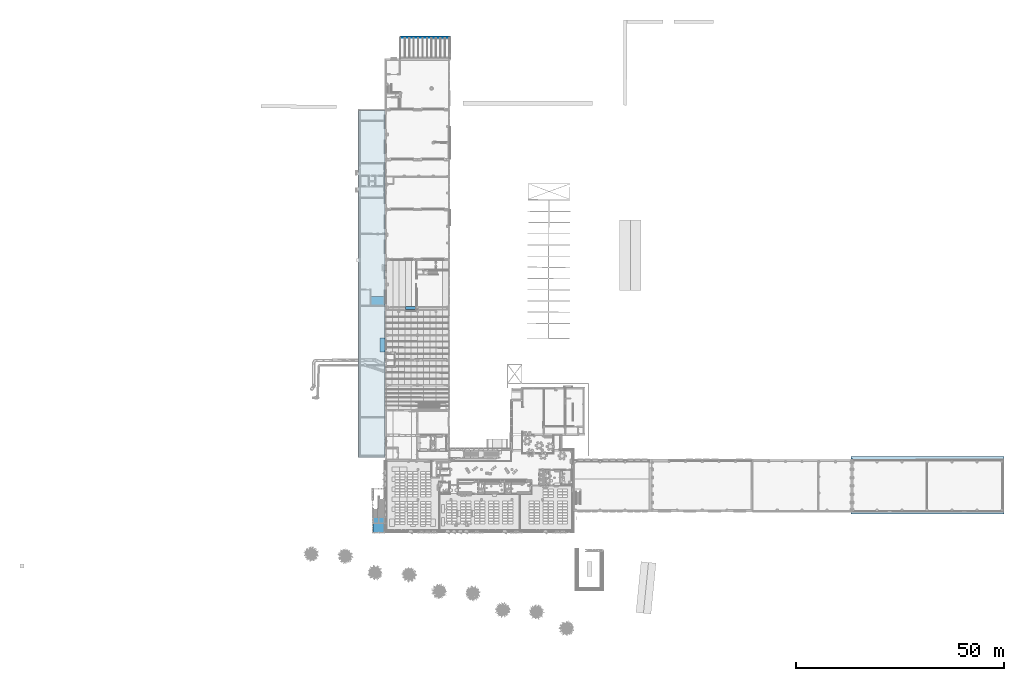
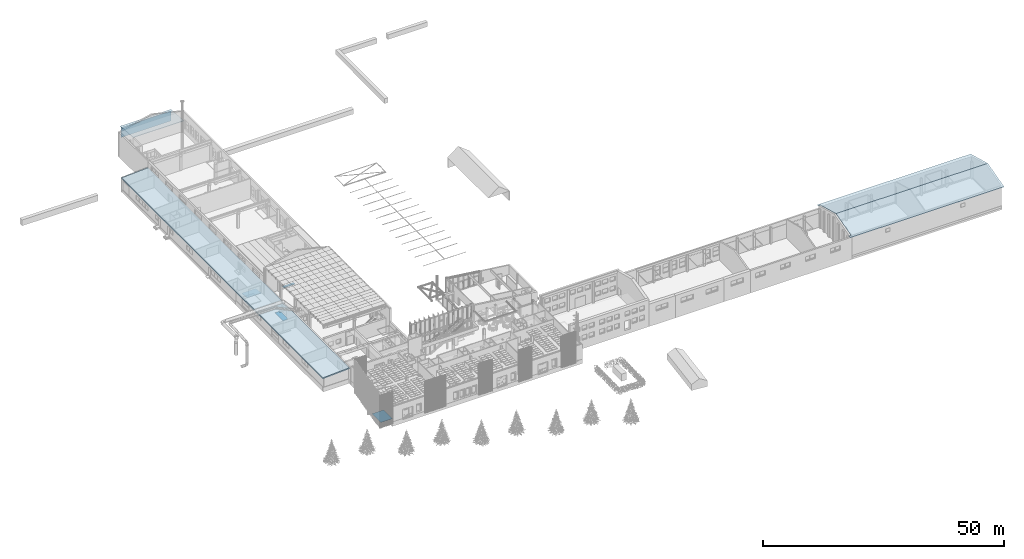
# One storey, part 174 of 301: 3 ramps, 3 roofs, 1 stair, 1 wall.
"""IFC2X3 building model written with IfcOpenShell, lengths in millimetres."""

from ifc_helpers import new_model, entity, si_unit, converted_unit, derived_unit, money_unit, direction, frame, origin_with_axes, place, context, subcontext, project, spatial, faceted_brep, material, type_object, element, save


model = new_model("IFC2X3")

# Units and contexts
model_context = context("Model", 3, precision=0.01, world=origin_with_axes(), true_north=direction((0.0, 1.0)))
body_context = subcontext(model_context, "Body", "Model", "MODEL_VIEW")
ifc_project = project(units=[si_unit("LENGTHUNIT", "METRE", prefix="MILLI"), si_unit("AREAUNIT", "SQUARE_METRE"), si_unit("VOLUMEUNIT", "CUBIC_METRE"), converted_unit("PLANEANGLEUNIT", "DEGREE", entity("IfcPlaneAngleMeasure", 0.0174532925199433), si_unit("PLANEANGLEUNIT", "RADIAN"), dimensions=[0, 0, 0, 0, 0, 0, 0]), money_unit("EUR"), converted_unit("TIMEUNIT", "Year", entity("IfcTimeMeasure", 31557600.0), si_unit("TIMEUNIT", "SECOND"), dimensions=[0, 0, 1, 0, 0, 0, 0]), si_unit("MASSUNIT", "GRAM", prefix="KILO"), si_unit("THERMODYNAMICTEMPERATUREUNIT", "DEGREE_CELSIUS"), si_unit("LUMINOUSINTENSITYUNIT", "LUMEN"), si_unit("ENERGYUNIT", "JOULE", prefix="MEGA"), derived_unit("THERMALCONDUCTANCEUNIT", [(si_unit("POWERUNIT", "WATT"), 1), (si_unit("LENGTHUNIT", "METRE"), -1), (si_unit("THERMODYNAMICTEMPERATUREUNIT", "KELVIN"), -1)]), derived_unit("SPECIFICHEATCAPACITYUNIT", [(si_unit("ENERGYUNIT", "JOULE"), 1), (si_unit("MASSUNIT", "GRAM", prefix="KILO"), -1), (si_unit("THERMODYNAMICTEMPERATUREUNIT", "KELVIN"), -1)]), derived_unit("MASSDENSITYUNIT", [(si_unit("MASSUNIT", "GRAM", prefix="KILO"), 1), (si_unit("VOLUMEUNIT", "CUBIC_METRE"), -1)])], contexts=[model_context])

# Site, building, storey
site_placement = place(None, frame((0.0, 0.0, 8650.0), z_axis=(0.0, 0.0, 1.0), x_axis=(1.0, 0.0, 0.0)))
site = spatial("IfcSite", under=ifc_project, at=site_placement, Name="43301:001:0844", CompositionType="ELEMENT")
building_placement = place(site_placement, origin_with_axes())
building = spatial("IfcBuilding", under=site, at=building_placement, Name="Kuressaare Ametikooli tuulikute mehaanikute õppekorpus", CompositionType="ELEMENT")
storey_placement = place(building_placement, origin_with_axes())
storey = spatial("IfcBuildingStorey", under=building, at=storey_placement, Name="1.korrus", CompositionType="ELEMENT", Elevation=0.0)

# Wall
ifc_material = material(Name="GENEERILINE - KONSTRUKTRIOON")
wall_type = type_object("IfcWallType", Name="GENEERILINE - KONSTRUKTRIOON 60", PredefinedType="NOTDEFINED")
wall_placement = place(storey_placement, frame((91598.74448396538, 127842.1249389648, -1100.0), z_axis=(0.0, 0.0, 1.0), x_axis=(1.0, 0.0, 0.0)))
element("IfcWall", 1, at=wall_placement, inside=storey, type_object=wall_type, material=ifc_material, Name="VS-XX", context=body_context, shape_type="Brep", body=[
    faceted_brep([(0.006477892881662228, 1.389821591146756e-08, 2527.333829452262), (11988.76772306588, 0.0, 2527.62994591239), (11988.76772306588, 0.0, 0.0), (0.0, 0.0, 0.0), (11988.76772306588, -59.99999999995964, 2532.879265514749), (0.006477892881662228, -60.00000000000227, 2532.583149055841), (11988.76772306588, -59.99999999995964, 2520.182089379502), (11988.76772306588, -30.83213695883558, 2520.182089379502), (11988.76772306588, -30.83213695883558, 2510.1820893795), (11988.76772306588, -59.99999999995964, 2510.1820893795), (11988.76772306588, -59.99999999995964, 2305.182089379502), (11988.76772306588, -30.83213695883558, 2305.182089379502), (11988.76772306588, -30.83213695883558, 2295.1820893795), (11988.76772306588, -59.99999999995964, 2295.1820893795), (11988.76772306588, -59.99999999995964, 0.0), (0.0, -60.00000000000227, 0.0), (29.5612776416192, -60.00000000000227, 2295.1820893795), (29.5612776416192, -60.00000000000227, 2305.182089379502), (29.5612776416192, -60.00000000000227, 2510.1820893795), (29.5612776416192, -60.00000000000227, 2520.182089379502), (29.60434128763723, -18.44022303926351, 2520.182089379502), (29.60434128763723, -18.44022303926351, 2510.1820893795), (29.60434128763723, -18.44022303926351, 2305.182089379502), (29.60434128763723, -18.44022303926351, 2295.1820893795)], [[[0, 1, 2, 3]], [[4, 1, 0, 5]], [[1, 4, 6, 7, 8, 9, 10, 11, 12, 13, 14, 2]], [[2, 14, 15, 3]], [[5, 0, 3, 15]], [[4, 5, 15, 14, 13, 16, 17, 10, 9, 18, 19, 6]], [[7, 6, 19, 20]], [[8, 7, 20, 21]], [[9, 8, 21, 18]], [[11, 10, 17, 22]], [[12, 11, 22, 23]], [[13, 12, 23, 16]], [[17, 16, 23, 22]], [[19, 18, 21, 20]]]),
])

# Stair
stair_placement = place(storey_placement, frame((85046.22662386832, 8623.838538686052, 1183.673538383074), z_axis=(0.0, 0.0, 1.0), x_axis=(1.0, 0.0, 0.0)))
element("IfcStair", 2, at=stair_placement, inside=storey, material=ifc_material, Name="Trepimade", ShapeType="NOTDEFINED", context=body_context, shape_type="Brep", body=[
    faceted_brep([(0.0, 0.0, 0.0), (0.0, 0.0, -40.00000000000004), (2810.000763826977, 0.0, -40.00000000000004), (2810.000763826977, 0.0, 0.0), (0.0, 3639.999530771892, 0.0), (0.0, 3639.999530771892, -40.00000000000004), (2810.000763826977, 3639.999530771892, -40.00000000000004), (2810.000763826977, 3639.999530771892, 0.0)], [[[0, 1, 2, 3]], [[4, 5, 1, 0]], [[2, 1, 5, 6]], [[3, 2, 6, 7]], [[4, 0, 3, 7]], [[7, 6, 5, 4]]]),
])

# Ramps
ramp_1_placement = place(storey_placement, frame((94186.18400073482, 62994.26269531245, 45.0), z_axis=(0.0, 0.0, 1.0), x_axis=(0.0, -1.0, 0.0)))
element("IfcRamp", 3, at=ramp_1_placement, inside=storey, material=ifc_material, ShapeType="NOTDEFINED", context=body_context, shape_type="Brep", body=[
    faceted_brep([(0.0, 1340.319336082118, -151.1812706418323), (0.0, 1340.319336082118, 0.0), (675.9607807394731, 1340.319336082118, 85.0), (675.9607807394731, 1340.319336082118, -66.18127064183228), (0.0, -1340.319336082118, -151.1812706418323), (0.0, -1340.319336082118, 0.0), (675.9607807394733, -1340.319336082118, 85.0), (675.9607807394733, -1340.319336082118, -66.18127064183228)], [[[0, 1, 2, 3]], [[0, 4, 5, 1]], [[1, 5, 6, 2]], [[3, 2, 6, 7]], [[4, 0, 3, 7]], [[5, 4, 7, 6]]]),
])
ramp_2_placement = place(storey_placement, frame((86227.79795646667, 65468.61006674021, -330.0), z_axis=(0.0, 0.0, 1.0), x_axis=(0.0, -1.0, 0.0)))
element("IfcRamp", 4, at=ramp_2_placement, inside=storey, material=ifc_material, ShapeType="NOTDEFINED", context=body_context, shape_type="Brep", body=[
    faceted_brep([(0.0, 1670.95849037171, -151.1232611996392), (0.0, 1670.95849037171, 0.0), (2300.000000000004, 1670.95849037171, 282.0), (2300.000000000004, 1670.95849037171, 130.8767388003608), (0.0, -1670.95849037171, -151.1232611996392), (0.0, -1670.95849037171, 0.0), (2300.000000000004, -1670.95849037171, 282.0), (2300.000000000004, -1670.95849037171, 130.8767388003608)], [[[0, 1, 2, 3]], [[0, 4, 5, 1]], [[1, 5, 6, 2]], [[3, 2, 6, 7]], [[4, 0, 3, 7]], [[5, 4, 7, 6]]]),
])
ramp_3_placement = place(storey_placement, frame((86714.69096453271, 53803.97578344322, 0.0), z_axis=(0.0, 0.0, 1.0), x_axis=(1.0, 0.0, 0.0)))
element("IfcRamp", 5, at=ramp_3_placement, inside=storey, material=ifc_material, ShapeType="NOTDEFINED", context=body_context, shape_type="Brep", body=[
    faceted_brep([(0.0, -1670.95849037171, -150.9013503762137), (0.0, 1670.95849037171, -150.9013503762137), (1184.06548230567, 1670.95849037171, -20.90135037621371), (1184.06548230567, -1670.95849037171, -20.90135037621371), (0.0, -1670.95849037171, 0.0), (0.0, 1670.95849037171, 0.0), (1184.06548230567, 1670.95849037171, 0.0), (1184.06548230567, -1024.64258973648, 129.9999999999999), (1184.06548230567, 955.3574102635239, 129.9999999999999), (1184.079496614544, -1670.958490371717, 1.681195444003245)], [[[0, 1, 2, 3]], [[0, 4, 5, 1]], [[1, 5, 6, 2]], [[7, 3, 2, 6, 8]], [[4, 0, 3, 9]], [[5, 4, 7, 8]], [[6, 5, 8]], [[3, 7, 9]], [[4, 9, 7]]]),
])

# Roofs
roof_1_placement = place(storey_placement, frame((218680.8518981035, 19981.81591733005, 5020.0), z_axis=(0.0, 0.0, 1.0), x_axis=(1.0, 0.0, 0.0)))
element("IfcRoof", 6, at=roof_1_placement, inside=storey, material=ifc_material, ShapeType="NOTDEFINED", context=body_context, shape_type="Brep", body=[
    faceted_brep([(-18417.23159781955, 6311.172745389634, 107.6750287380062), (-17997.23159781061, 6311.172745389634, 107.6750287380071), (-17997.23159781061, -166.2123268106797, 1860.555927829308), (18417.2315976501, -166.2123268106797, 1860.555927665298), (18417.23159808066, 6709.062087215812, -4.495106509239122e-07), (18389.82303241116, 6912.212533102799, -54.97566304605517), (-18388.53980318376, 6912.212533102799, -54.97566304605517), (-18417.23159779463, 6709.062093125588, -2.04878780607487e-06), (-17997.23159781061, 6311.172745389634, -67.76961240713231), (-18417.23159781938, 6311.172745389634, -2.042889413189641e-06), (-18381.86264180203, 6311.172745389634, -67.76961216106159), (-17997.23159781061, -6464.158200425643, 167.3558802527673), (-17997.23159781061, -166.3567009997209, 1685.15035657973), (-17997.23159781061, -6174.158200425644, 69.95549974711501), (-17997.23159781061, -6174.158200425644, 103.1875742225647), (-17997.23159781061, -6464.158200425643, 103.1875742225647), (-18417.2315980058, -6464.158200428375, 167.3558802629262), (-18417.23159799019, -6912.212533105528, 46.8966650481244), (18417.23159799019, -6912.212533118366, 46.89666504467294), (18417.23159808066, 6060.745080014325, -4.508704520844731e-07), (18417.2315976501, -166.3567009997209, 1685.15035657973), (18308.32220387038, 6867.9741872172, -218.4487212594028), (-18303.22322261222, 6867.9741872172, -218.4487212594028), (-18417.23159822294, -6174.158200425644, 69.95549974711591), (18417.2315976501, -6868.243351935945, -116.6489955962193), (-18417.23159822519, -6868.243351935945, -116.6489955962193), (-18417.23159822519, -6174.158200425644, 103.1875742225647), (-18417.2315978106, -6464.158200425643, 103.1875742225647)], [[[0, 1, 2, 3, 4, 5, 6, 7]], [[8, 1, 0, 9, 10]], [[11, 2, 1, 8, 12, 13, 14, 15]], [[2, 11, 16, 17, 18, 3]], [[19, 4, 3, 20]], [[4, 19, 21, 5]], [[5, 21, 22, 6]], [[22, 10, 9, 7, 6]], [[7, 9, 0]], [[12, 8, 10, 22, 21, 19, 20]], [[23, 13, 12, 20, 24, 25]], [[14, 13, 23, 26]], [[14, 26, 27, 15]], [[27, 16, 11, 15]], [[27, 26, 23, 25, 17, 16]], [[17, 25, 24, 18]], [[18, 24, 20, 3]]]),
])
roof_2_placement = place(storey_placement, frame((81499.5507277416, 110318.8935961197, 2445.0), z_axis=(0.0, 0.0, 1.0), x_axis=(0.00470815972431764, -0.9999889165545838, 0.0)))
element("IfcRoof", 7, at=roof_2_placement, inside=storey, material=ifc_material, ShapeType="NOTDEFINED", context=body_context, shape_type="Brep", body=[
    faceted_brep([(-239.6309568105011, 6440.393720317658, 646.9994665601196), (30.36604091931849, 6439.120450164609, 646.9305087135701), (0.5153598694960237, 109.2820853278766, 304.1187168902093), (83623.41101254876, -284.4322277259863, 282.7959118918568), (83653.32029166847, 6068.144866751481, 626.8391892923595), (-239.4343458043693, 6490.493184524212, 649.7127565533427), (-269.5278985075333, 110.5535062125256, 304.1875745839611), (-269.4816476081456, 110.5532884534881, 304.187562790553), (30.36604091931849, 6439.120450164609, 348.7302980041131), (-239.6309568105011, 6440.393720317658, 348.7992558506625), (0.5912964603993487, 125.3844431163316, 6.790578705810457), (83623.41101254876, -268.3295124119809, -14.5322069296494), (83653.32029166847, 6084.247582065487, 329.5110704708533), (-239.4343458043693, 6506.595899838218, 352.3846377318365), (-269.5278985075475, 126.656221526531, 6.859455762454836), (-269.4057110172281, 126.6556462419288, 6.859424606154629)], [[[0, 1, 2, 3, 4, 5, 6, 7]], [[8, 1, 0, 9]], [[10, 2, 1, 8]], [[3, 2, 10, 11]], [[4, 3, 11, 12]], [[5, 4, 12, 13]], [[6, 5, 13, 14]], [[14, 15, 7, 6]], [[9, 0, 7, 15]], [[8, 9, 15, 14, 13, 12, 11, 10]]]),
])
roof_3_placement = place(storey_placement, frame((103427.5174546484, 127929.2904541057, 1420.0), z_axis=(0.0, 0.0, 1.0), x_axis=(-0.9999999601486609, -0.0002823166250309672, 0.0)))
element("IfcRoof", 8, at=roof_3_placement, inside=storey, material=ifc_material, ShapeType="NOTDEFINED", context=body_context, shape_type="Brep", body=[
    faceted_brep([(-324.1653627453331, 5186.803181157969, 568.7864782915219), (-324.1653627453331, 5196.787951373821, 454.6600324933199), (-325.7156102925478, -294.3781649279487, -25.75475222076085), (-325.7156102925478, -304.3629351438, 88.37169357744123), (11830.23154652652, 5183.371719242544, 568.486264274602), (11830.23154652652, 5193.35648945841, 454.3598184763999), (11828.68225005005, -294.4408180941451, -25.7602336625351), (11828.68225005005, -304.4255883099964, 88.36621213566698)], [[[0, 1, 2, 3]], [[4, 5, 1, 0]], [[2, 1, 5, 6]], [[3, 2, 6, 7]], [[4, 0, 3, 7]], [[7, 6, 5, 4]]]),
])

save(model, "model.ifc")
